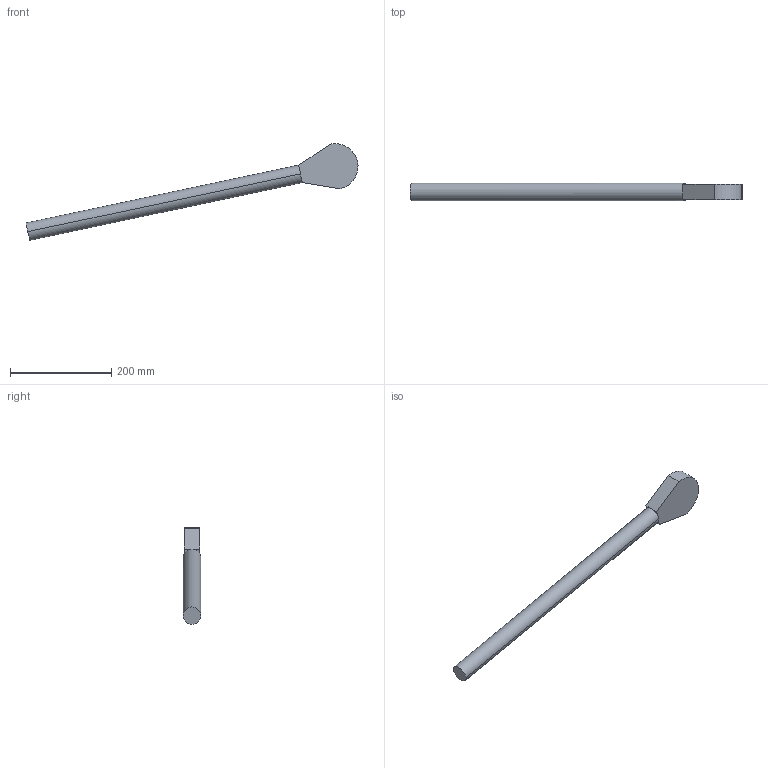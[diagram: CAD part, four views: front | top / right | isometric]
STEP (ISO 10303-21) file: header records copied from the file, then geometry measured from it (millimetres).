
FILE_DESCRIPTION (( 'STEP AP214' ), '1' );
FILE_NAME ('IRB4400_60_m2000_rev1_01-6.STEP', '2001-11-21T06:41:26', ( 'Jonas Eriksson' ), ( 'Evotech Engineering AB' ), 'SwSTEP 2.0', 'SolidWorks 2001287', '' );
FILE_SCHEMA (( 'AUTOMOTIVE_DESIGN' ));
Length unit declared in the file: millimetre
Products named in the file (1): IRB4400_60_m2000_rev1_01-6
Bounding box: 655.11 x 35 x 190.76 mm (x, y, z)
Volume: 755837.9 mm3; surface area: 85513 mm2
Topology: 1 solids, 1 shells, 15 faces, 33 edges, 20 vertices
Faces by surface type: plane 11, cylinder 4
Entity records: 436 total; most frequent: DIRECTION 79, CARTESIAN_POINT 69, ORIENTED_EDGE 66, EDGE_CURVE 33, AXIS2_PLACEMENT_3D 30, VERTEX_POINT 20, LINE 19, VECTOR 19
